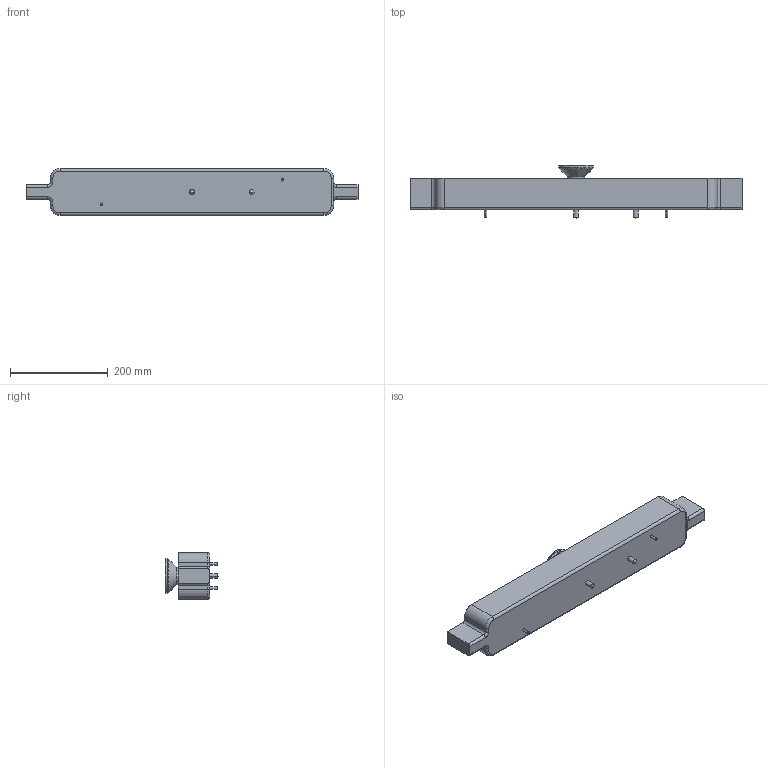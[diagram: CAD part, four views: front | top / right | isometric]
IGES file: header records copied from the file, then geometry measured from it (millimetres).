
Start section: SolidWorks IGES file using analytic representation for surfaces
Global section: file name: F:\CARTELLA CONDIVISA - 3D\01 - Piastre - 3D\Piastre Standard - Resistenza Sezione Quadrata 6x6\CCLDL2Q-S-T[4P]\Parte Multicorpo + Positivo Sede\CCLDL2DQ-04T\SEDE CCLDL2DQ-04T LT=400 B=15.IGS; native system: SolidWorks 2013; preprocessor: SolidWorks 2013; author: ws-20; date: 140128.143537; units: millimetre
Bounding box: 680 x 108.89 x 96 mm (x, y, z)
Surface area: 221848.3 mm2 (no closed solid volume)
Topology: 0 solids, 0 shells, 66 faces, 627 edges, 768 vertices
Faces by surface type: revolution 39, bspline 27
